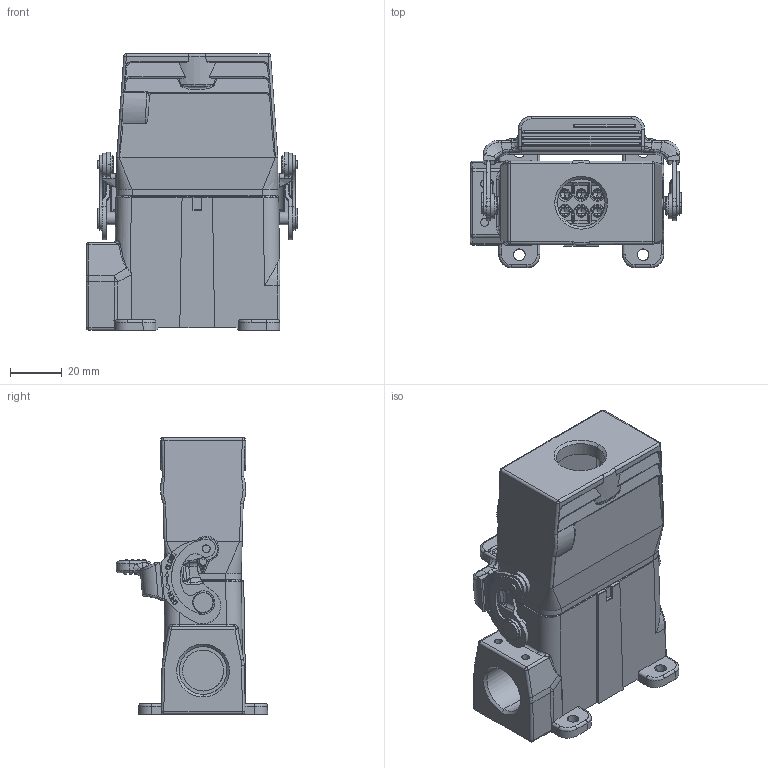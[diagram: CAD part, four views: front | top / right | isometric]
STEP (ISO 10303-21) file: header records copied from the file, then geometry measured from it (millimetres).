
FILE_DESCRIPTION (( 'STEP AP203' ), '1' );
FILE_NAME ('09010004220 H10A HA、10针、表面底座、顶出M20套件.STEP', '2024-04-18T05:15:25', ( 'L' ), ( '' ), 'SwSTEP 2.0', 'SolidWorks 2019', '' );
FILE_SCHEMA (( 'CONFIG_CONTROL_DESIGN' ));
Products named in the file (5): HA-010-M.stp; H10A-SGR-M20.step; H10A-TG-M20.step; 09010004220 H10A HA、10针、表面底座、顶出M20套件; HA-010-F.stp
Assembly tree (4 placements, depth 2):
  09010004220 H10A HA、10针、表面底座、顶出M20套件
    HA-010-M.stp
    HA-010-F.stp
    H10A-TG-M20.step
    H10A-SGR-M20.step
Bounding box: 81.95 x 58.61 x 107.3 mm (x, y, z)
Volume: 140969.7 mm3; surface area: 80255.8 mm2
Topology: 6 solids, 24 shells, 3594 faces, 9643 edges, 6216 vertices
Faces by surface type: plane 1782, cylinder 910, bspline 518, cone 280, torus 80, sphere 24
Full cylindrical faces by diameter (mm): 0.4 x2
Entity records: 139109 total; most frequent: CARTESIAN_POINT 55144, ORIENTED_EDGE 19016, DIRECTION 14680, EDGE_CURVE 9508, VERTEX_POINT 6190, VECTOR 5272, LINE 5272, AXIS2_PLACEMENT_3D 4704
